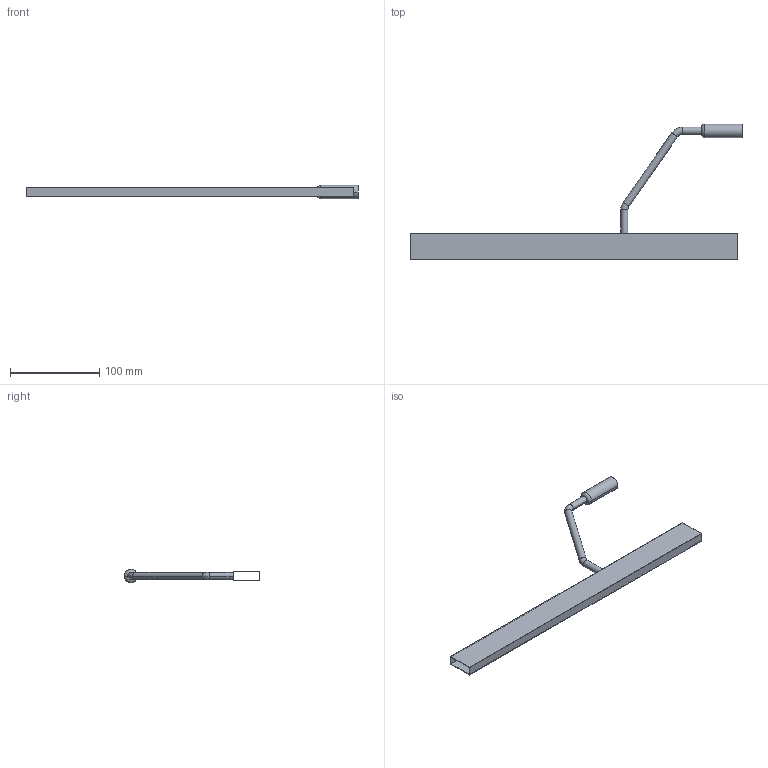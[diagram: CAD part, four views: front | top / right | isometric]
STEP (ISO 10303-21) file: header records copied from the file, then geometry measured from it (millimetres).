
FILE_DESCRIPTION (( 'STEP AP214' ), '1' );
FILE_NAME ('_DWD XP Rechteckreling mit Frontabstützung NL400.step', '2010-07-14T13:27:13', ( 'grass' ), ( '' ), 'SwSTEP 2.0', 'SolidWorks 2010', '' );
FILE_SCHEMA (( 'AUTOMOTIVE_DESIGN' ));
Length unit declared in the file: millimetre
Products named in the file (1): _DWD XP Rechteckreling mit Frontabstützung NL400
Bounding box: 371.6 x 151.9 x 15 mm (x, y, z)
Volume: 33202.7 mm3; surface area: 64110.6 mm2
Topology: 1 solids, 1 shells, 25 faces, 54 edges, 32 vertices
Faces by surface type: plane 11, cylinder 8, torus 6
Entity records: 712 total; most frequent: DIRECTION 128, CARTESIAN_POINT 112, ORIENTED_EDGE 108, EDGE_CURVE 54, AXIS2_PLACEMENT_3D 48, LINE 32, VECTOR 32, VERTEX_POINT 32
